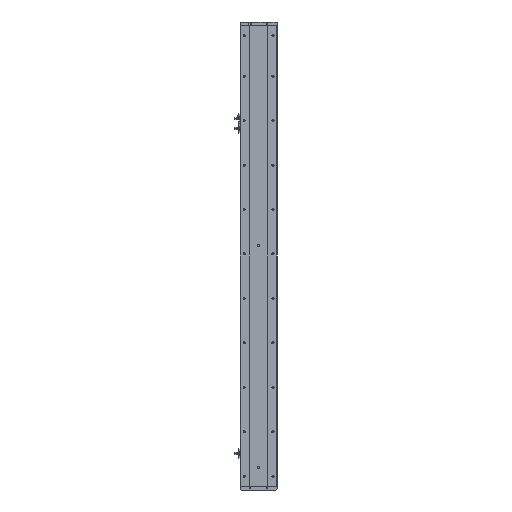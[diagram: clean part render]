
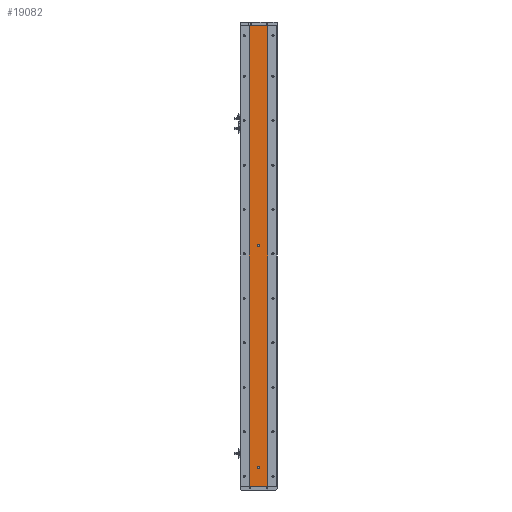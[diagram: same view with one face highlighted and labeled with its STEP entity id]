
A CAD part, left-side view. The second image highlights one B-rep face of the part: STEP entity #19082.
In plain terms, the highlighted planar face has unit normal (-1, 0, 0).
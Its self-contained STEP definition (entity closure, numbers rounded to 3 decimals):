
#943 = CARTESIAN_POINT ( 'NONE',  ( -18.926, 0., 50. ) ) ;
#1921 = CARTESIAN_POINT ( 'NONE',  ( -18.926, -24.785, 0. ) ) ;
#2098 = CARTESIAN_POINT ( 'NONE',  ( -18.926, -24.785, 1243. ) ) ;
#2122 = CARTESIAN_POINT ( 'NONE',  ( -18.926, 24.785, 1243. ) ) ;
#2228 = ORIENTED_EDGE ( 'NONE', *, *, #12609, .F. ) ;
#2272 = VERTEX_POINT ( 'NONE', #10259 ) ;
#3873 = CARTESIAN_POINT ( 'NONE',  ( -18.926, 0., 50. ) ) ;
#4025 = ORIENTED_EDGE ( 'NONE', *, *, #28615, .F. ) ;
#4336 = DIRECTION ( 'NONE',  ( 0., 0., 1. ) ) ;
#5106 = VERTEX_POINT ( 'NONE', #1921 ) ;
#5302 = VERTEX_POINT ( 'NONE', #35267 ) ;
#5343 = VECTOR ( 'NONE', #37640, 1000. ) ;
#5533 = DIRECTION ( 'NONE',  ( 0., 0., -1. ) ) ;
#6398 = DIRECTION ( 'NONE',  ( -1., 0., 0. ) ) ;
#7176 = CARTESIAN_POINT ( 'NONE',  ( -18.926, 0., 650. ) ) ;
#7223 = DIRECTION ( 'NONE',  ( 0., 0., 1. ) ) ;
#7691 = CARTESIAN_POINT ( 'NONE',  ( -18.926, 24.785, 1243. ) ) ;
#7993 = DIRECTION ( 'NONE',  ( 0., -1., 0. ) ) ;
#8212 = VERTEX_POINT ( 'NONE', #28584 ) ;
#8671 = PLANE ( 'NONE',  #29175 ) ;
#9166 = VECTOR ( 'NONE', #32250, 1000. ) ;
#9842 = CIRCLE ( 'NONE', #37539, 3. ) ;
#10227 = LINE ( 'NONE', #2098, #9166 ) ;
#10259 = CARTESIAN_POINT ( 'NONE',  ( -18.926, 24.785, 0. ) ) ;
#10521 = DIRECTION ( 'NONE',  ( 0., 0., 1. ) ) ;
#10897 = ORIENTED_EDGE ( 'NONE', *, *, #11622, .T. ) ;
#11325 = AXIS2_PLACEMENT_3D ( 'NONE', #7176, #30592, #10521 ) ;
#11622 = EDGE_CURVE ( 'NONE', #5302, #2272, #13178, .T. ) ;
#12609 = EDGE_CURVE ( 'NONE', #41535, #8212, #30821, .T. ) ;
#13178 = LINE ( 'NONE', #7691, #5343 ) ;
#13230 = ORIENTED_EDGE ( 'NONE', *, *, #31531, .F. ) ;
#14639 = VECTOR ( 'NONE', #7993, 1000. ) ;
#14796 = EDGE_CURVE ( 'NONE', #8212, #41535, #28583, .T. ) ;
#15975 = CARTESIAN_POINT ( 'NONE',  ( -18.926, 0., 53. ) ) ;
#17524 = CARTESIAN_POINT ( 'NONE',  ( -18.926, 0., 47. ) ) ;
#19082 = ADVANCED_FACE ( 'NONE', ( #25622, #34473, #43385 ), #8671, .F. ) ;
#19568 = ORIENTED_EDGE ( 'NONE', *, *, #14796, .F. ) ;
#21059 = EDGE_CURVE ( 'NONE', #35772, #5106, #10227, .T. ) ;
#21304 = AXIS2_PLACEMENT_3D ( 'NONE', #943, #24376, #4336 ) ;
#22530 = ORIENTED_EDGE ( 'NONE', *, *, #21059, .F. ) ;
#23622 = VERTEX_POINT ( 'NONE', #17524 ) ;
#24376 = DIRECTION ( 'NONE',  ( -1., 0., 0. ) ) ;
#24651 = EDGE_CURVE ( 'NONE', #43022, #23622, #9842, .T. ) ;
#25525 = DIRECTION ( 'NONE',  ( 1., 0., 0. ) ) ;
#25622 = FACE_BOUND ( 'NONE', #41168, .T. ) ;
#26100 = EDGE_CURVE ( 'NONE', #2272, #5106, #41280, .T. ) ;
#26432 = CARTESIAN_POINT ( 'NONE',  ( -18.926, 0., 650. ) ) ;
#27267 = DIRECTION ( 'NONE',  ( 0., -1., 0. ) ) ;
#27268 = DIRECTION ( 'NONE',  ( -1., 0., 0. ) ) ;
#27739 = LINE ( 'NONE', #37145, #35533 ) ;
#28583 = CIRCLE ( 'NONE', #38980, 3. ) ;
#28584 = CARTESIAN_POINT ( 'NONE',  ( -18.926, 0., 653. ) ) ;
#28615 = EDGE_CURVE ( 'NONE', #23622, #43022, #37222, .T. ) ;
#29175 = AXIS2_PLACEMENT_3D ( 'NONE', #2122, #25525, #5533 ) ;
#29786 = DIRECTION ( 'NONE',  ( 0., 0., 1. ) ) ;
#30592 = DIRECTION ( 'NONE',  ( -1., 0., 0. ) ) ;
#30821 = CIRCLE ( 'NONE', #11325, 3. ) ;
#31531 = EDGE_CURVE ( 'NONE', #5302, #35772, #27739, .T. ) ;
#32155 = CARTESIAN_POINT ( 'NONE',  ( -18.926, -24.785, 1243. ) ) ;
#32250 = DIRECTION ( 'NONE',  ( 0., 0., -1. ) ) ;
#33670 = EDGE_LOOP ( 'NONE', ( #40066, #22530, #13230, #10897 ) ) ;
#34473 = FACE_BOUND ( 'NONE', #35802, .T. ) ;
#34731 = CARTESIAN_POINT ( 'NONE',  ( -18.926, 24.785, 0. ) ) ;
#35267 = CARTESIAN_POINT ( 'NONE',  ( -18.926, 24.785, 1243. ) ) ;
#35533 = VECTOR ( 'NONE', #27267, 1000. ) ;
#35730 = CARTESIAN_POINT ( 'NONE',  ( -18.926, 0., 647. ) ) ;
#35772 = VERTEX_POINT ( 'NONE', #32155 ) ;
#35802 = EDGE_LOOP ( 'NONE', ( #36149, #4025 ) ) ;
#36149 = ORIENTED_EDGE ( 'NONE', *, *, #24651, .F. ) ;
#37145 = CARTESIAN_POINT ( 'NONE',  ( -18.926, 24.785, 1243. ) ) ;
#37222 = CIRCLE ( 'NONE', #21304, 3. ) ;
#37539 = AXIS2_PLACEMENT_3D ( 'NONE', #3873, #27268, #7223 ) ;
#37640 = DIRECTION ( 'NONE',  ( 0., 0., -1. ) ) ;
#38980 = AXIS2_PLACEMENT_3D ( 'NONE', #26432, #6398, #29786 ) ;
#40066 = ORIENTED_EDGE ( 'NONE', *, *, #26100, .T. ) ;
#41168 = EDGE_LOOP ( 'NONE', ( #19568, #2228 ) ) ;
#41280 = LINE ( 'NONE', #34731, #14639 ) ;
#41535 = VERTEX_POINT ( 'NONE', #35730 ) ;
#43022 = VERTEX_POINT ( 'NONE', #15975 ) ;
#43385 = FACE_OUTER_BOUND ( 'NONE', #33670, .T. ) ;
